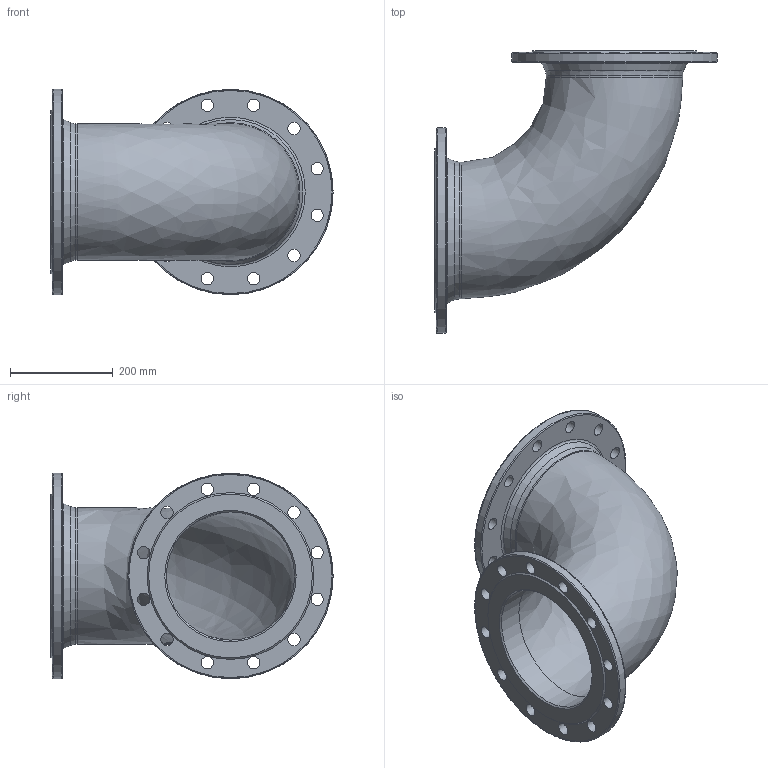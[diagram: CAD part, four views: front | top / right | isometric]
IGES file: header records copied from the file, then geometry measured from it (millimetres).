
Start section: SolidWorks IGES file using analytic representation for surfaces
Global section: file name: \\avksan2\techshare\PBM outline export from Enovia\O_712_0610_DN250_0X_REV01.igs; native system: SolidWorks 2019; preprocessor: SolidWorks 2019; author: pbm; date: 211119.111102; units: millimetre
Bounding box: 550 x 550 x 400 mm (x, y, z)
Surface area: 1226701.9 mm2 (no closed solid volume)
Topology: 0 solids, 1 shells, 94 faces, 461 edges, 411 vertices
Faces by surface type: revolution 53, bspline 41
